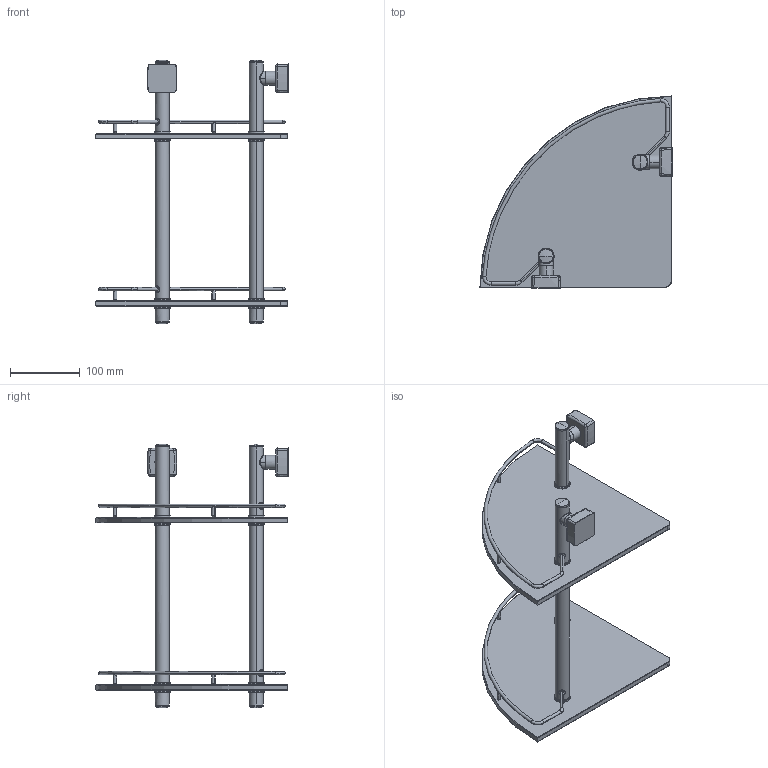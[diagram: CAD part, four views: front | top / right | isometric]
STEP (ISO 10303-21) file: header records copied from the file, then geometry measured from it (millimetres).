
FILE_DESCRIPTION(('THIS FILE CONTAINS SOME STEP INSTANCES'),'1');
FILE_NAME('esp_072.stp','2015-12-16T14:55:24',('UNDEFINED'),('UNDEFINED'),'T-FLEX CAD STEP converter','T-FLEX CAD','');
FILE_SCHEMA(('CONFIG_CONTROL_DESIGN'));
Length unit declared in the file: metre
Products named in the file (6): 砱鋋_42; 砱鋋_44; 3D 鐨飹懤艜_49
Bounding box: 275.9 x 275.9 x 378.4 mm (x, y, z)
Volume: 1270414.6 mm3; surface area: 337245.8 mm2
Topology: 6 solids, 10 shells, 382 faces, 889 edges, 533 vertices
Faces by surface type: cylinder 132, bspline 72, plane 62, cone 52, torus 48, sphere 16
Entity records: 28643 total; most frequent: CARTESIAN_POINT 21607, ORIENTED_EDGE 1730, DIRECTION 1022, EDGE_CURVE 865, VERTEX_POINT 533, EDGE_LOOP 420, AXIS2_PLACEMENT_3D 419, ADVANCED_FACE 382
